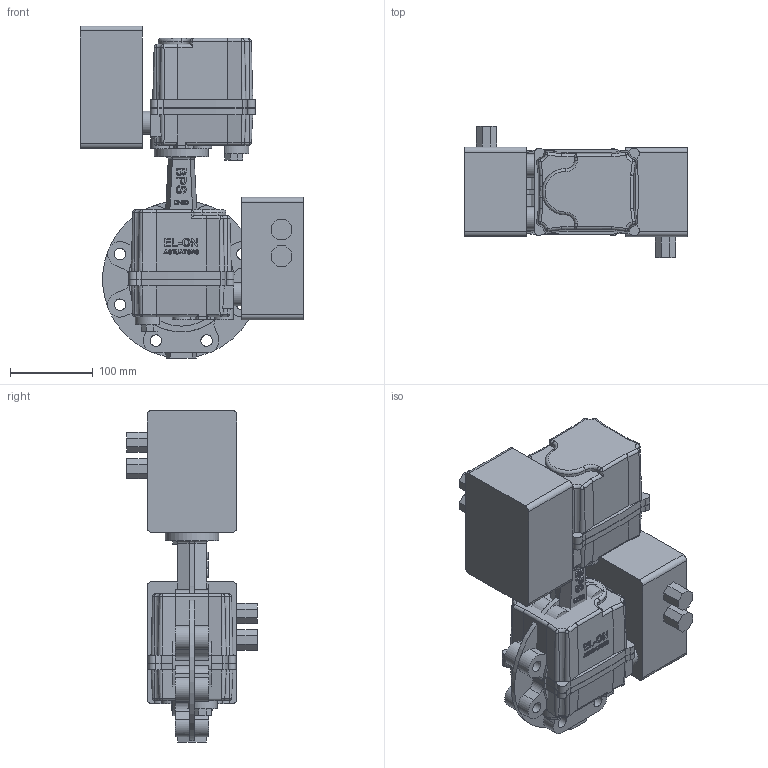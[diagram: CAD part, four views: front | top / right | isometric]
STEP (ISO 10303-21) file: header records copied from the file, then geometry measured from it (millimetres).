
FILE_DESCRIPTION( ( 'Unknown' ), '1' );
FILE_NAME( 'R:/ECCUA/ROOTSI BPS 3D vidinad/Poordklapid Lug type/Butterfly valve(lug) with electric actuator BPS/STEP formaat/BPS 2313080ER butterfly valve DN80.stp', 'Unknown', ( 'Unknown' ), ( 'Unknown' ), 'PSStep 10.1', 'Unknown', ' ' );
FILE_SCHEMA( ( 'AUTOMOTIVE_DESIGN { 1 0 10303 214 1 1 1 1 }' ) );
Length unit declared in the file: millimetre
Products named in the file (4): Assem1; BPS 8010058 electric actuator DN40-100; Butterfly valve lug type DN80 PN10-16 BPS
Bounding box: 270 x 158 x 401 mm (x, y, z)
Volume: 7062570.1 mm3; surface area: 627744.9 mm2
Topology: 6 solids, 6 shells, 1270 faces, 3384 edges, 2194 vertices
Faces by surface type: plane 470, cylinder 342, extrusion 264, cone 84, bspline 72, torus 38
Full cylindrical faces by diameter (mm): 4.134 x16, 4.917 x8, 6.647 x8, 7 x8, 13.835 x16, 28 x4, 65 x2, 80 x2, 113 x4, 127 x4
Entity records: 31918 total; most frequent: CARTESIAN_POINT 11713, ORIENTED_EDGE 3146, DIRECTION 2852, EDGE_CURVE 1573, VERTEX_POINT 1065, AXIS2_PLACEMENT_3D 951, VECTOR 950, LINE 818
